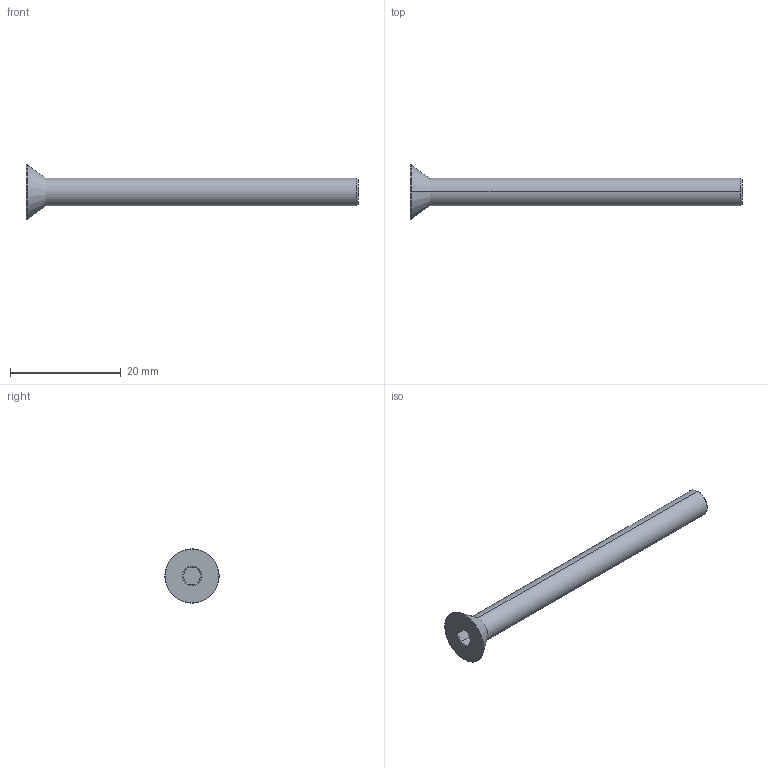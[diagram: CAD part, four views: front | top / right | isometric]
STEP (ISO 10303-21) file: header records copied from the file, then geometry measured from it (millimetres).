
FILE_DESCRIPTION (( 'STEP AP203' ), '1' );
FILE_NAME ('LGDB-TDE-M5x60.STEP', '2026-08-10T11:31:46', ( '' ), ( '' ), 'SwSTEP 2.0', 'SolidWorks 2020', '' );
FILE_SCHEMA (( 'CONFIG_CONTROL_DESIGN' ));
Length unit declared in the file: millimetre
Products named in the file (1): LGDB-TDE-M5x60
Bounding box: 60 x 9.8 x 9.8 mm (x, y, z)
Volume: 1253.6 mm3; surface area: 1105.7 mm2
Topology: 1 solids, 1 shells, 28 faces, 53 edges, 28 vertices
Faces by surface type: cone 11, plane 9, torus 4, cylinder 4
Entity records: 784 total; most frequent: CARTESIAN_POINT 145, DIRECTION 129, ORIENTED_EDGE 106, AXIS2_PLACEMENT_3D 54, EDGE_CURVE 53, EDGE_LOOP 29, FACE_OUTER_BOUND 28, VERTEX_POINT 28
